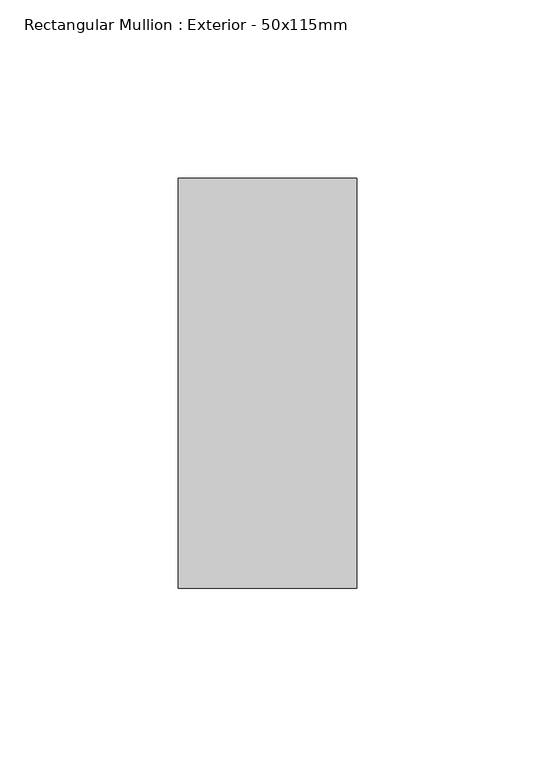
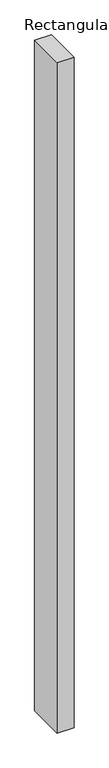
"""IFC4 building model written with IfcOpenShell, lengths in millimetres: member geometry, Rectangular Mullion : Exterior - 50x115mm."""

import ifcopenshell
import ifcopenshell.guid

model = None  # the IFC model being written
_history = None  # IfcOwnerHistory: only IFC2X3 demands one
_inside = {}  # id of a spatial element -> (the spatial element, [elements in it])
_under = {}  # id of a project, library or spatial element -> (it, [spatial elements below it])
_declared = {}  # id of a project -> (the project, [libraries it declares])
_typed = {}  # id of a type object -> (the type object, [elements of that type])
_made_of = {}  # id of a material, layer set ... -> (it, [elements and type objects made of it])


def new_model(schema):
    """Start an empty IFC model of exactly this schema.

    Asked for "IFC4X3", IfcOpenShell would pick the latest addendum, in which some entities
    have other attributes; the version numbers below select the first issue.
    IFC2X3 requires an IfcOwnerHistory on every rooted entity: one is made here for all.
    """
    global model, _history
    if schema == "IFC4X3":
        model = ifcopenshell.file(schema_version=(4, 3, 0, 0))
    else:
        model = ifcopenshell.file(schema=schema)
    _inside.clear()
    _under.clear()
    _declared.clear()
    _typed.clear()
    _made_of.clear()
    _history = None
    if model.schema == "IFC2X3":
        org = make("IfcOrganization", Name="unknown")
        user = make(
            "IfcPersonAndOrganization",
            ThePerson=make("IfcPerson", FamilyName="unknown"),
            TheOrganization=org,
        )
        app = make(
            "IfcApplication",
            ApplicationDeveloper=org,
            Version="unknown",
            ApplicationFullName="unknown",
            ApplicationIdentifier="unknown",
        )
        _history = make(
            "IfcOwnerHistory",
            OwningUser=user,
            OwningApplication=app,
            ChangeAction="ADDED",
            CreationDate=0,
        )
    return model


def make(cls, **values):
    """One entity of the class cls with the attributes given. An attribute that is None is left unset."""
    return model.create_entity(
        cls, **{name: value for name, value in values.items() if value is not None}
    )


def rooted(cls, **values):
    """An entity with a GlobalId (a new one), such as an element, a storey or a relation."""
    return make(cls, GlobalId=ifcopenshell.guid.new(), OwnerHistory=_history, **values)


def si_unit(unit_type, name, prefix=None):
    """IfcSIUnit, for example si_unit("LENGTHUNIT", "METRE", prefix="MILLI")."""
    return make("IfcSIUnit", UnitType=unit_type, Prefix=prefix, Name=name)


def assignment(units):
    """IfcUnitAssignment: the units of a project."""
    return None if units is None else make("IfcUnitAssignment", Units=units)


def point(xyz):
    """IfcCartesianPoint."""
    return None if xyz is None else make("IfcCartesianPoint", Coordinates=xyz)


def direction(xyz):
    """IfcDirection."""
    return None if xyz is None else make("IfcDirection", DirectionRatios=xyz)


def frame(location, z_axis=None, x_axis=None):
    """IfcAxis2Placement3D, a coordinate frame: its origin and axes. An axis left out is left unset."""
    return make(
        "IfcAxis2Placement3D",
        Location=point(location),
        Axis=direction(z_axis),
        RefDirection=direction(x_axis),
    )


def origin():
    """The frame at (0, 0, 0) with its axes left unset."""
    return frame((0.0, 0.0, 0.0))


def place(relative_to, where):
    """IfcLocalPlacement: puts the frame where relative to a parent placement (None: the world)."""
    return make(
        "IfcLocalPlacement", PlacementRelTo=relative_to, RelativePlacement=where
    )


def context(
    kind, dimensions, precision=None, world=None, true_north=None, identifier=None
):
    """IfcGeometricRepresentationContext, for example the 3D "Model" context."""
    return make(
        "IfcGeometricRepresentationContext",
        ContextIdentifier=identifier,
        ContextType=kind,
        CoordinateSpaceDimension=dimensions,
        Precision=precision,
        WorldCoordinateSystem=world,
        TrueNorth=true_north,
    )


def project(units=None, contexts=None):
    """IfcProject with its units and contexts."""
    return rooted(
        "IfcProject",
        Name="project",
        RepresentationContexts=contexts,
        UnitsInContext=assignment(units),
    )


def spatial(cls, under=None, at=None, **own):
    """A site, building, storey or space (cls), placed at a placement, below another one or the project."""
    s = rooted(cls, ObjectPlacement=at, **own)
    if under is not None:
        _under.setdefault(under.id(), (under, []))[1].append(s)
    return s


def polyline(points):
    """IfcPolyline through the points."""
    return make("IfcPolyline", Points=[point(p) for p in points])


def outline(outer, holes=None, kind="AREA"):
    """IfcArbitraryClosedProfileDef: a profile drawn as a closed curve; with holes, ...WithVoids."""
    if holes is None:
        return make("IfcArbitraryClosedProfileDef", ProfileType=kind, OuterCurve=outer)
    return make(
        "IfcArbitraryProfileDefWithVoids",
        ProfileType=kind,
        OuterCurve=outer,
        InnerCurves=holes,
    )


def extrude(swept, where, along, depth):
    """IfcExtrudedAreaSolid: the profile swept, set in the frame where, extruded along a direction by depth."""
    return make(
        "IfcExtrudedAreaSolid",
        SweptArea=swept,
        Position=where,
        ExtrudedDirection=direction(along),
        Depth=depth,
    )


def shape(context_of_items, identifier, shape_type, items):
    """IfcShapeRepresentation: the items that make up one representation, for example the "Body"."""
    return make(
        "IfcShapeRepresentation",
        ContextOfItems=context_of_items,
        RepresentationIdentifier=identifier,
        RepresentationType=shape_type,
        Items=items,
    )


def source(mapping_origin, context_of_items, identifier, shape_type, items):
    """IfcRepresentationMap: a shape defined once, which mapped items show again and again."""
    return make(
        "IfcRepresentationMap",
        MappingOrigin=mapping_origin,
        MappedRepresentation=shape(context_of_items, identifier, shape_type, items),
    )


def transform(
    local_origin,
    x_axis=None,
    y_axis=None,
    z_axis=None,
    scale=None,
    scale2=None,
    scale3=None,
    uniform=True,
):
    """IfcCartesianTransformationOperator3D, or its non-uniform kind. x_axis, y_axis, z_axis: its Axis1, 2, 3."""
    if uniform:
        return make(
            "IfcCartesianTransformationOperator3D",
            Axis1=direction(x_axis),
            Axis2=direction(y_axis),
            LocalOrigin=point(local_origin),
            Scale=scale,
            Axis3=direction(z_axis),
        )
    return make(
        "IfcCartesianTransformationOperator3DnonUniform",
        Axis1=direction(x_axis),
        Axis2=direction(y_axis),
        LocalOrigin=point(local_origin),
        Scale=scale,
        Axis3=direction(z_axis),
        Scale2=scale2,
        Scale3=scale3,
    )


def mapped(mapping_source, mapping_target):
    """IfcMappedItem: shows the shape of a source again, moved by a transform."""
    return make(
        "IfcMappedItem", MappingSource=mapping_source, MappingTarget=mapping_target
    )


def made_of(thing, what):
    """Note that an element or type object is made of a material, layer set ...; save() writes the relation."""
    if what is not None:
        _made_of.setdefault(what.id(), (what, []))[1].append(thing)
    return thing


def element(
    cls,
    number,
    at=None,
    inside=None,
    cuts=None,
    type_object=None,
    material=None,
    context=None,
    identifier="Body",
    shape_type=None,
    held_by="IfcProductDefinitionShape",
    body=None,
    shapes=None,
    **own,
):
    """One element of the class cls, such as IfcWall. Its Tag is "e" and its number.

    at: its placement. inside: the storey or other place that contains it. cuts: it is an
    opening in that element (IfcRelVoidsElement). A single representation is given by context,
    identifier, shape_type and body (its items); several are given by shapes. held_by: the class
    of the entity that holds the representations. save() writes the other relations.
    """
    e = rooted(cls, Tag="e%d" % number, ObjectPlacement=at, **own)
    if body is not None:
        shapes = [shape(context, identifier, shape_type, body)]
    if shapes is not None:
        e.Representation = make(held_by, Representations=shapes)
    if inside is not None:
        _inside.setdefault(inside.id(), (inside, []))[1].append(e)
    if cuts is not None:
        rooted(
            "IfcRelVoidsElement", RelatingBuildingElement=cuts, RelatedOpeningElement=e
        )
    if type_object is not None:
        _typed.setdefault(type_object.id(), (type_object, []))[1].append(e)
    return made_of(e, material)


def aggregate(whole, parts):
    """IfcRelAggregates: a whole, such as a stair, and the parts it consists of."""
    return rooted("IfcRelAggregates", RelatingObject=whole, RelatedObjects=parts)


def save(model, path):
    """Write the relations noted so far, then the file.

    IfcRelAggregates (storeys below a building ...), IfcRelContainedInSpatialStructure (elements
    in a storey), IfcRelDefinesByType, IfcRelAssociatesMaterial and IfcRelDeclares: one each for
    every whole, place, type object, material and project.
    """
    for whole, parts in _under.values():
        aggregate(whole, parts)
    for where, things in _inside.values():
        rooted(
            "IfcRelContainedInSpatialStructure",
            RelatedElements=things,
            RelatingStructure=where,
        )
    for kind, things in _typed.values():
        rooted("IfcRelDefinesByType", RelatedObjects=things, RelatingType=kind)
    for what, things in _made_of.values():
        rooted("IfcRelAssociatesMaterial", RelatedObjects=things, RelatingMaterial=what)
    for by, libraries in _declared.values():
        rooted("IfcRelDeclares", RelatingContext=by, RelatedDefinitions=libraries)
    model.write(path)


def rectangular_mullion_exterior_50x115mm_593a1a29(model_context):
    return source(origin(), model_context, "Body", "SweptSolid", [
        extrude(outline(polyline([(0.0, 115.0), (0.0, 0.0), (-50.0, 0.0), (-50.0, 115.0), (0.0, 115.0)])), frame((0.0, 0.0, -2100.0), z_axis=(0.0, 0.0, 1.0), x_axis=(1.0, 0.0, 0.0)), (0.0, 0.0, 1.0), 2100.0),
    ])


if __name__ == "__main__":
    model = new_model("IFC4")
    model_context = context("Model", 3, world=origin())
    ifc_project = project(units=[si_unit("LENGTHUNIT", "METRE", prefix="MILLI")], contexts=[model_context])
    site = spatial("IfcSite", under=ifc_project)
    building = spatial("IfcBuilding", under=site)
    placement = place(None, origin())
    rectangular_mullion_exterior_50x115mm_shape = rectangular_mullion_exterior_50x115mm_593a1a29(model_context)
    element("IfcMember", 1, ObjectType="Rectangular Mullion : Exterior - 50x115mm", at=placement, inside=building, context=model_context, shape_type="MappedRepresentation", body=[
        mapped(rectangular_mullion_exterior_50x115mm_shape, transform((0.0, 0.0, 0.0), x_axis=(1.0, 0.0, 0.0), y_axis=(0.0, 1.0, 0.0), z_axis=(0.0, 0.0, 1.0))),
    ])
    save(model, "model.ifc")
